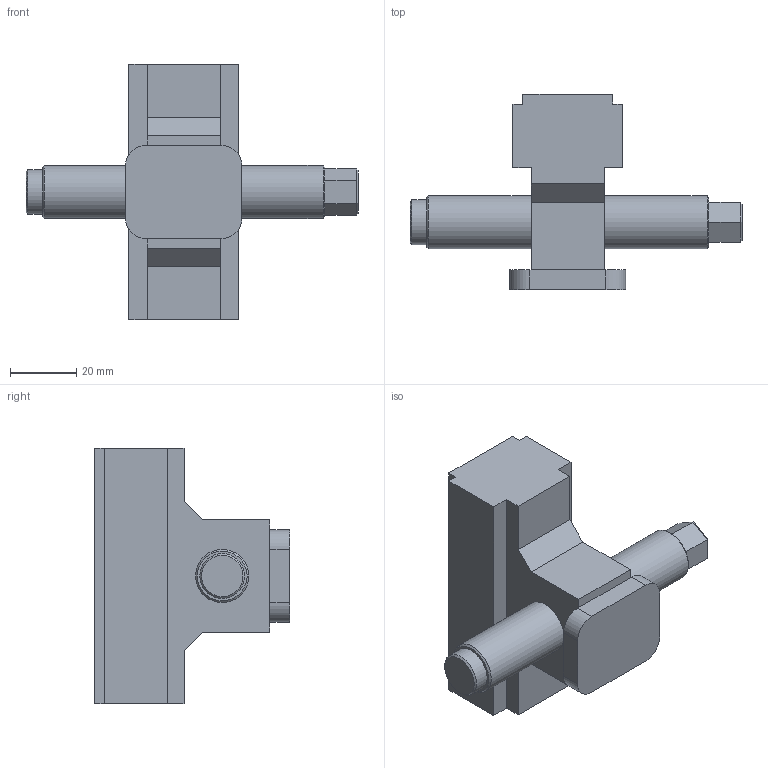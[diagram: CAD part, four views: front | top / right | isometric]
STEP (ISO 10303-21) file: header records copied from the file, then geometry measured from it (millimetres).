
FILE_DESCRIPTION (( 'STEP AP214' ), '1' );
FILE_NAME ('48085-TG-7727.STEP', '2020-03-24T14:38:53', ( '' ), ( '' ), 'SwSTEP 2.0', 'SolidWorks 2019', '' );
FILE_SCHEMA (( 'AUTOMOTIVE_DESIGN' ));
Length unit declared in the file: millimetre
Products named in the file (1): 48085-TG-7727
Bounding box: 100 x 58.8 x 77 mm (x, y, z)
Volume: 103032.8 mm3; surface area: 18952.3 mm2
Topology: 1 solids, 1 shells, 67 faces, 163 edges, 103 vertices
Faces by surface type: plane 57, cylinder 7, cone 3
Full cylindrical faces by diameter (mm): 13.5 x1, 16 x2
Entity records: 2410 total; most frequent: CARTESIAN_POINT 324, ORIENTED_EDGE 310, DIRECTION 308, EDGE_CURVE 155, LINE 138, VECTOR 138, VERTEX_POINT 101, AXIS2_PLACEMENT_3D 85
